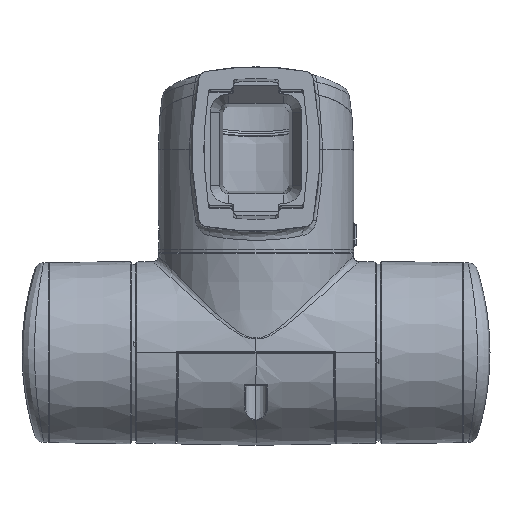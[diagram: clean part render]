
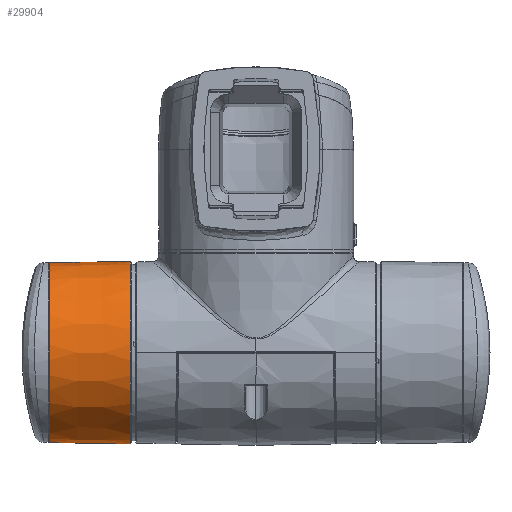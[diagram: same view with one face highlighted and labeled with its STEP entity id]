
A CAD part, top view. The second image highlights one B-rep face of the part: STEP entity #29904.
In plain terms, the highlighted conical face has half-angle 1 degrees and reference radius 49.685 mm.
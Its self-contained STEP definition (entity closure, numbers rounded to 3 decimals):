
#19238=CARTESIAN_POINT('',(-112.886,-55.,0.));
#19239=DIRECTION('',(-1.,0.,0.));
#19240=DIRECTION('',(0.,-0.999,-0.05));
#19241=AXIS2_PLACEMENT_3D('',#19238,#19239,#19240);
#19246=CARTESIAN_POINT('',(-68.969,-55.,0.));
#19247=DIRECTION('',(1.,0.,0.));
#19248=DIRECTION('',(0.,0.999,-0.05));
#19249=AXIS2_PLACEMENT_3D('',#19246,#19247,#19248);
#19254=DIRECTION('',(-1.,0.017,0.001));
#19255=VECTOR('',#19254,43.924);
#19256=CARTESIAN_POINT('',(-68.969,-105.007,
-2.481));
#19257=LINE('',#19256,#19255);
#19367=DIRECTION('',(-1.,-0.017,0.001));
#19368=VECTOR('',#19367,43.924);
#19369=CARTESIAN_POINT('',(-68.969,-4.993,
-2.481));
#19370=LINE('',#19369,#19368);
#28151=CARTESIAN_POINT('',(-112.886,-104.241,
-2.443));
#28152=VERTEX_POINT('',#28151);
#28155=CARTESIAN_POINT('',(-112.886,-5.759,
-2.443));
#28156=VERTEX_POINT('',#28155);
#28195=CARTESIAN_POINT('',(-68.969,-4.993,
-2.481));
#28196=CARTESIAN_POINT('',(-68.969,-105.007,
-2.481));
#28197=VERTEX_POINT('',#28195);
#28198=VERTEX_POINT('',#28196);
#29889=CARTESIAN_POINT('',(-90.927,-55.,0.));
#29890=DIRECTION('',(1.,0.,0.));
#29891=DIRECTION('',(0.,0.,1.));
#29892=AXIS2_PLACEMENT_3D('',#29889,#29890,#29891);
#29893=CONICAL_SURFACE('',#29892,49.685,1.);
#29895=ORIENTED_EDGE('',*,*,#29894,.T.);
#29897=ORIENTED_EDGE('',*,*,#29896,.F.);
#29899=ORIENTED_EDGE('',*,*,#29898,.T.);
#29901=ORIENTED_EDGE('',*,*,#29900,.T.);
#29902=EDGE_LOOP('',(#29895,#29897,#29899,#29901));
#29903=FACE_OUTER_BOUND('',#29902,.F.);
#19242=CIRCLE('',#19241,49.302);
#19250=CIRCLE('',#19249,50.069);
#29894=EDGE_CURVE('',#28152,#28156,#19242,.T.);
#29896=EDGE_CURVE('',#28197,#28156,#19370,.T.);
#29898=EDGE_CURVE('',#28197,#28198,#19250,.T.);
#29900=EDGE_CURVE('',#28198,#28152,#19257,.T.);
#29904=ADVANCED_FACE('',(#29903),#29893,.T.);
